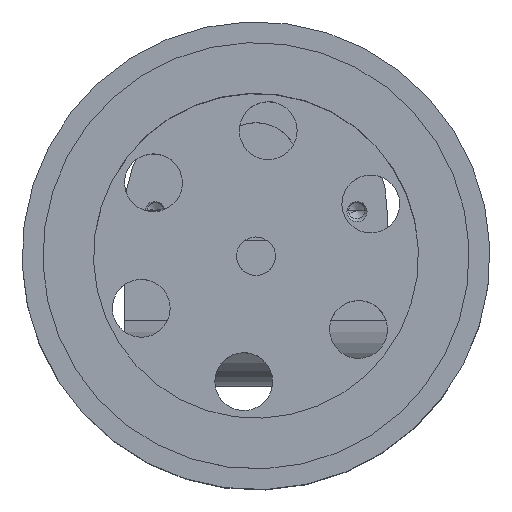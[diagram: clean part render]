
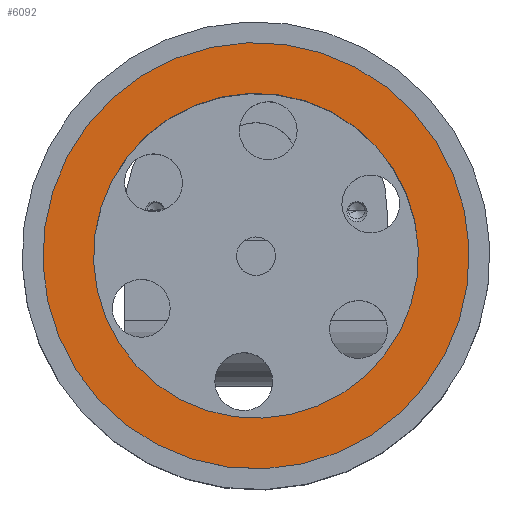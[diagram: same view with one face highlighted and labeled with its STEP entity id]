
A CAD part, top view. The second image highlights one B-rep face of the part: STEP entity #6092.
In plain terms, the highlighted planar face has unit normal (0, 0, 1).
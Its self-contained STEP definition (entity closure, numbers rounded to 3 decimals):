
#2 = FACE_BOUND ( 'NONE', #3856, .T. ) ;
#41 = CIRCLE ( 'NONE', #549, 25. ) ;
#291 = DIRECTION ( 'NONE',  ( 0., 0., 1. ) ) ;
#375 = CARTESIAN_POINT ( 'NONE',  ( 0., 0., 1. ) ) ;
#510 = ORIENTED_EDGE ( 'NONE', *, *, #4671, .T. ) ;
#549 = AXIS2_PLACEMENT_3D ( 'NONE', #2431, #2883, #2854 ) ;
#756 = CIRCLE ( 'NONE', #5799, 32.8 ) ;
#891 = DIRECTION ( 'NONE',  ( 1., 0., 0. ) ) ;
#1368 = AXIS2_PLACEMENT_3D ( 'NONE', #375, #1913, #891 ) ;
#1417 = CARTESIAN_POINT ( 'NONE',  ( 0., 0., 1. ) ) ;
#1763 = AXIS2_PLACEMENT_3D ( 'NONE', #3271, #291, #4724 ) ;
#1825 = VERTEX_POINT ( 'NONE', #5643 ) ;
#1913 = DIRECTION ( 'NONE',  ( 0., 0., 1. ) ) ;
#1926 = PLANE ( 'NONE',  #3818 ) ;
#1951 = CARTESIAN_POINT ( 'NONE',  ( 0., 0., 1. ) ) ;
#2196 = CIRCLE ( 'NONE', #1368, 25. ) ;
#2375 = EDGE_LOOP ( 'NONE', ( #510, #5733 ) ) ;
#2383 = ORIENTED_EDGE ( 'NONE', *, *, #3739, .F. ) ;
#2431 = CARTESIAN_POINT ( 'NONE',  ( 0., 0., 1. ) ) ;
#2555 = CARTESIAN_POINT ( 'NONE',  ( -32.8, 0., 1. ) ) ;
#2854 = DIRECTION ( 'NONE',  ( 1., 0., 0. ) ) ;
#2883 = DIRECTION ( 'NONE',  ( 0., 0., 1. ) ) ;
#3271 = CARTESIAN_POINT ( 'NONE',  ( 0., 0., 1. ) ) ;
#3331 = EDGE_CURVE ( 'NONE', #1825, #3568, #41, .T. ) ;
#3388 = DIRECTION ( 'NONE',  ( 0., 0., 1. ) ) ;
#3539 = FACE_OUTER_BOUND ( 'NONE', #2375, .T. ) ;
#3568 = VERTEX_POINT ( 'NONE', #3752 ) ;
#3613 = CARTESIAN_POINT ( 'NONE',  ( 32.8, 0., 1. ) ) ;
#3739 = EDGE_CURVE ( 'NONE', #3568, #1825, #2196, .T. ) ;
#3752 = CARTESIAN_POINT ( 'NONE',  ( -25., 0., 1. ) ) ;
#3816 = EDGE_CURVE ( 'NONE', #4155, #4965, #756, .T. ) ;
#3818 = AXIS2_PLACEMENT_3D ( 'NONE', #1951, #5498, #4463 ) ;
#3856 = EDGE_LOOP ( 'NONE', ( #2383, #4973 ) ) ;
#4155 = VERTEX_POINT ( 'NONE', #3613 ) ;
#4355 = DIRECTION ( 'NONE',  ( 1., 0., 0. ) ) ;
#4463 = DIRECTION ( 'NONE',  ( 1., 0., 0. ) ) ;
#4531 = CIRCLE ( 'NONE', #1763, 32.8 ) ;
#4671 = EDGE_CURVE ( 'NONE', #4965, #4155, #4531, .T. ) ;
#4724 = DIRECTION ( 'NONE',  ( 1., 0., 0. ) ) ;
#4965 = VERTEX_POINT ( 'NONE', #2555 ) ;
#4973 = ORIENTED_EDGE ( 'NONE', *, *, #3331, .F. ) ;
#5498 = DIRECTION ( 'NONE',  ( 0., 0., 1. ) ) ;
#5643 = CARTESIAN_POINT ( 'NONE',  ( 25., 0., 1. ) ) ;
#5733 = ORIENTED_EDGE ( 'NONE', *, *, #3816, .T. ) ;
#5799 = AXIS2_PLACEMENT_3D ( 'NONE', #1417, #3388, #4355 ) ;
#6092 = ADVANCED_FACE ( 'NONE', ( #3539, #2 ), #1926, .T. ) ;
